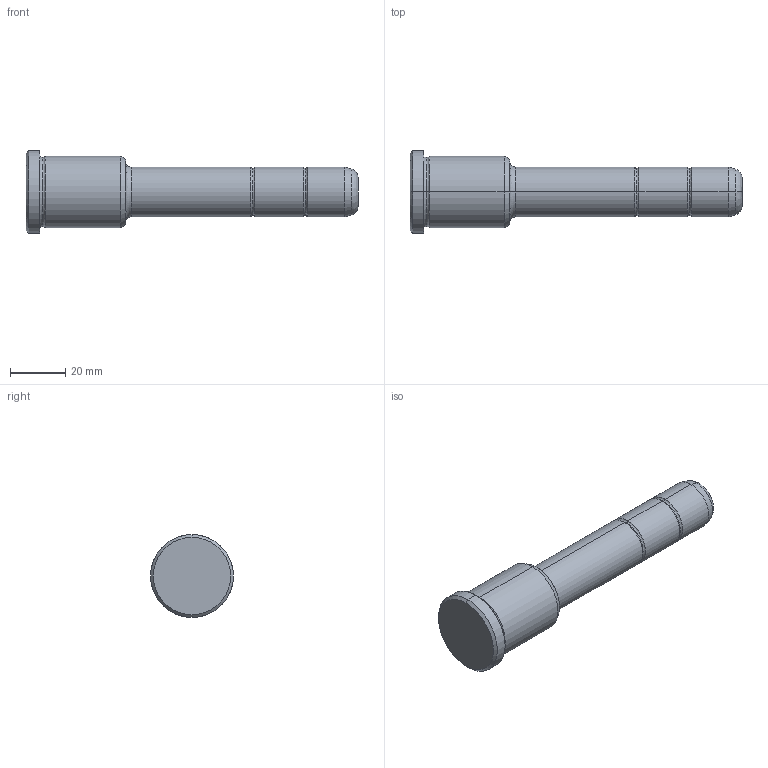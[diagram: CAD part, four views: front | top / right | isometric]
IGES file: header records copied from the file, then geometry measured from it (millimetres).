
Start section: START RECORD GO HERE.
Global section: file name: 351-18X36X120.igs; native system: DASSAULT SYSTEMES CATIA V5 R20 - www.3ds.com; preprocessor: CATIA Version 5 Release 20 ; author: Utente; organization: NB04-ASUS; date: 20210819.144038; units: millimetre
Bounding box: 120 x 30 x 30 mm (x, y, z)
Surface area: 8936.8 mm2 (no closed solid volume)
Topology: 0 solids, 0 shells, 36 faces, 204 edges, 204 vertices
Faces by surface type: revolution 32, plane 4
